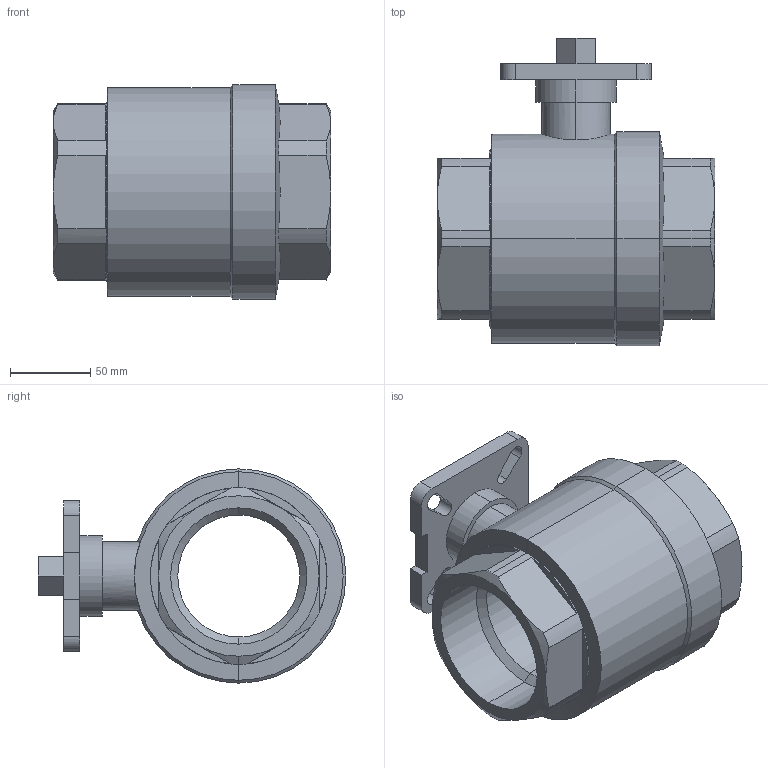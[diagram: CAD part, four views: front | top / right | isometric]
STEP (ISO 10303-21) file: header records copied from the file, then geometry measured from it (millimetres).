
FILE_DESCRIPTION (( 'STEP AP203' ), '1' );
FILE_NAME ('B3.622I0800FVPB0.STEP', '2018-10-02T07:34:44', ( '' ), ( '' ), 'SwSTEP 2.0', 'SolidWorks 2014', '' );
FILE_SCHEMA (( 'CONFIG_CONTROL_DESIGN' ));
Length unit declared in the file: millimetre
Products named in the file (1): B3.622I0800FVPB0
Bounding box: 173 x 191.75 x 133.5 mm (x, y, z)
Volume: 1277515.4 mm3; surface area: 149550.1 mm2
Topology: 1 solids, 1 shells, 113 faces, 288 edges, 181 vertices
Faces by surface type: plane 50, cylinder 39, cone 24
Entity records: 3770 total; most frequent: CARTESIAN_POINT 915, DIRECTION 591, ORIENTED_EDGE 576, EDGE_CURVE 288, AXIS2_PLACEMENT_3D 221, VERTEX_POINT 181, LINE 149, VECTOR 149
